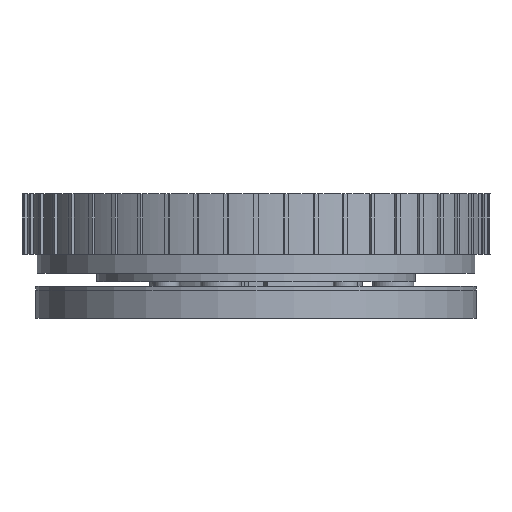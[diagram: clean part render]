
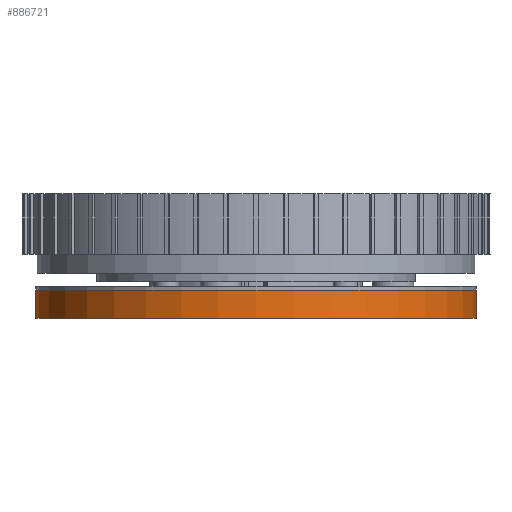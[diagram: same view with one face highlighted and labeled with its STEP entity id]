
A CAD part, front view. The second image highlights one B-rep face of the part: STEP entity #886721.
In plain terms, the highlighted cylindrical face has radius 29 mm (diameter 58 mm), a full revolution.
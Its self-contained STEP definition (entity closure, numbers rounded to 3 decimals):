
#886068 = EDGE_CURVE('',#886069,#886069,#886071,.T.);
#886069 = VERTEX_POINT('',#886070);
#886070 = CARTESIAN_POINT('',(29.,0.,0.2));
#886071 = SURFACE_CURVE('',#886072,(#886077,#886089),.PCURVE_S1.);
#886072 = CIRCLE('',#886073,29.);
#886073 = AXIS2_PLACEMENT_3D('',#886074,#886075,#886076);
#886074 = CARTESIAN_POINT('',(0.,0.,0.2));
#886075 = DIRECTION('',(0.,0.,1.));
#886076 = DIRECTION('',(1.,0.,-0.));
#886077 = PCURVE('',#886078,#886083);
#886078 = PLANE('',#886079);
#886079 = AXIS2_PLACEMENT_3D('',#886080,#886081,#886082);
#886080 = CARTESIAN_POINT('',(0.,0.,0.2
    ));
#886081 = DIRECTION('',(0.,0.,1.));
#886082 = DIRECTION('',(1.,0.,-0.));
#886083 = DEFINITIONAL_REPRESENTATION('',(#886084),#886088);
#886084 = CIRCLE('',#886085,29.);
#886085 = AXIS2_PLACEMENT_2D('',#886086,#886087);
#886086 = CARTESIAN_POINT('',(0.,0.));
#886087 = DIRECTION('',(1.,0.));
#886088 = ( GEOMETRIC_REPRESENTATION_CONTEXT(2) 
PARAMETRIC_REPRESENTATION_CONTEXT() REPRESENTATION_CONTEXT('2D SPACE',''
  ) );
#886089 = PCURVE('',#886090,#886095);
#886090 = CYLINDRICAL_SURFACE('',#886091,29.);
#886091 = AXIS2_PLACEMENT_3D('',#886092,#886093,#886094);
#886092 = CARTESIAN_POINT('',(0.,0.,0.8));
#886093 = DIRECTION('',(-0.,-0.,-1.));
#886094 = DIRECTION('',(1.,0.,0.));
#886095 = DEFINITIONAL_REPRESENTATION('',(#886096),#886100);
#886096 = LINE('',#886097,#886098);
#886097 = CARTESIAN_POINT('',(6.283,0.6));
#886098 = VECTOR('',#886099,1.);
#886099 = DIRECTION('',(-1.,0.));
#886100 = ( GEOMETRIC_REPRESENTATION_CONTEXT(2) 
PARAMETRIC_REPRESENTATION_CONTEXT() REPRESENTATION_CONTEXT('2D SPACE',''
  ) );
#886721 = ADVANCED_FACE('',(#886722),#886090,.T.);
#886722 = FACE_BOUND('',#886723,.T.);
#886723 = EDGE_LOOP('',(#886724,#886725,#886748,#886775));
#886724 = ORIENTED_EDGE('',*,*,#886068,.T.);
#886725 = ORIENTED_EDGE('',*,*,#886726,.T.);
#886726 = EDGE_CURVE('',#886069,#886727,#886729,.T.);
#886727 = VERTEX_POINT('',#886728);
#886728 = CARTESIAN_POINT('',(29.,0.,3.9));
#886729 = SEAM_CURVE('',#886730,(#886734,#886741),.PCURVE_S1.);
#886730 = LINE('',#886731,#886732);
#886731 = CARTESIAN_POINT('',(29.,0.,0.2));
#886732 = VECTOR('',#886733,1.);
#886733 = DIRECTION('',(0.,0.,1.));
#886734 = PCURVE('',#886090,#886735);
#886735 = DEFINITIONAL_REPRESENTATION('',(#886736),#886740);
#886736 = LINE('',#886737,#886738);
#886737 = CARTESIAN_POINT('',(6.283,0.6));
#886738 = VECTOR('',#886739,1.);
#886739 = DIRECTION('',(-0.,-1.));
#886740 = ( GEOMETRIC_REPRESENTATION_CONTEXT(2) 
PARAMETRIC_REPRESENTATION_CONTEXT() REPRESENTATION_CONTEXT('2D SPACE',''
  ) );
#886741 = PCURVE('',#886090,#886742);
#886742 = DEFINITIONAL_REPRESENTATION('',(#886743),#886747);
#886743 = LINE('',#886744,#886745);
#886744 = CARTESIAN_POINT('',(0.,0.6));
#886745 = VECTOR('',#886746,1.);
#886746 = DIRECTION('',(-0.,-1.));
#886747 = ( GEOMETRIC_REPRESENTATION_CONTEXT(2) 
PARAMETRIC_REPRESENTATION_CONTEXT() REPRESENTATION_CONTEXT('2D SPACE',''
  ) );
#886748 = ORIENTED_EDGE('',*,*,#886749,.F.);
#886749 = EDGE_CURVE('',#886727,#886727,#886750,.T.);
#886750 = SURFACE_CURVE('',#886751,(#886756,#886763),.PCURVE_S1.);
#886751 = CIRCLE('',#886752,29.);
#886752 = AXIS2_PLACEMENT_3D('',#886753,#886754,#886755);
#886753 = CARTESIAN_POINT('',(0.,0.,3.9));
#886754 = DIRECTION('',(0.,0.,1.));
#886755 = DIRECTION('',(1.,0.,-0.));
#886756 = PCURVE('',#886090,#886757);
#886757 = DEFINITIONAL_REPRESENTATION('',(#886758),#886762);
#886758 = LINE('',#886759,#886760);
#886759 = CARTESIAN_POINT('',(6.283,-3.1));
#886760 = VECTOR('',#886761,1.);
#886761 = DIRECTION('',(-1.,0.));
#886762 = ( GEOMETRIC_REPRESENTATION_CONTEXT(2) 
PARAMETRIC_REPRESENTATION_CONTEXT() REPRESENTATION_CONTEXT('2D SPACE',''
  ) );
#886763 = PCURVE('',#886764,#886769);
#886764 = CYLINDRICAL_SURFACE('',#886765,29.);
#886765 = AXIS2_PLACEMENT_3D('',#886766,#886767,#886768);
#886766 = CARTESIAN_POINT('',(0.,0.,0.2));
#886767 = DIRECTION('',(-0.,-0.,-1.));
#886768 = DIRECTION('',(1.,0.,0.));
#886769 = DEFINITIONAL_REPRESENTATION('',(#886770),#886774);
#886770 = LINE('',#886771,#886772);
#886771 = CARTESIAN_POINT('',(-0.,-3.7));
#886772 = VECTOR('',#886773,1.);
#886773 = DIRECTION('',(-1.,0.));
#886774 = ( GEOMETRIC_REPRESENTATION_CONTEXT(2) 
PARAMETRIC_REPRESENTATION_CONTEXT() REPRESENTATION_CONTEXT('2D SPACE',''
  ) );
#886775 = ORIENTED_EDGE('',*,*,#886726,.F.);
